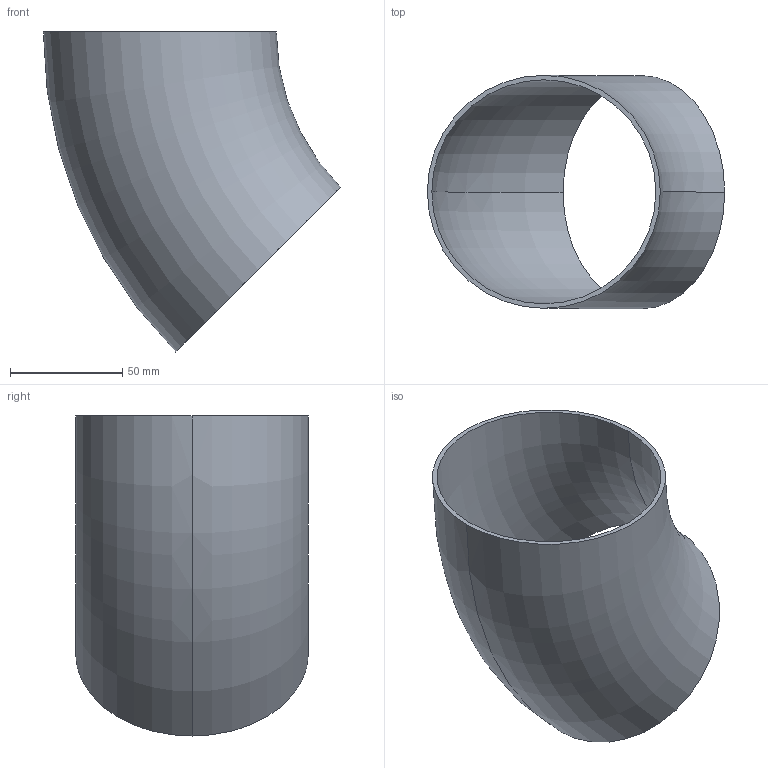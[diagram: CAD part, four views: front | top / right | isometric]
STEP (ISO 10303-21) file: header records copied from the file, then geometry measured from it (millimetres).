
FILE_DESCRIPTION (( 'STEP AP203' ), '1' );
FILE_NAME ('3D_R1650_104x2_17351500.STEP', '2024-08-03T09:07:36', ( '' ), ( '' ), 'SwSTEP 2.0', 'SolidWorks 2024', '' );
FILE_SCHEMA (( 'CONFIG_CONTROL_DESIGN' ));
Length unit declared in the file: millimetre
Products named in the file (1): 3D_R1650_104x2_17351500
Bounding box: 132.7 x 104 x 142.84 mm (x, y, z)
Volume: 75502.5 mm3; surface area: 76784.2 mm2
Topology: 1 solids, 1 shells, 6 faces, 12 edges, 8 vertices
Faces by surface type: torus 4, plane 2
Entity records: 249 total; most frequent: DIRECTION 38, CARTESIAN_POINT 27, ORIENTED_EDGE 24, AXIS2_PLACEMENT_3D 19, CIRCLE 12, EDGE_CURVE 12, EDGE_LOOP 8, VERTEX_POINT 8
